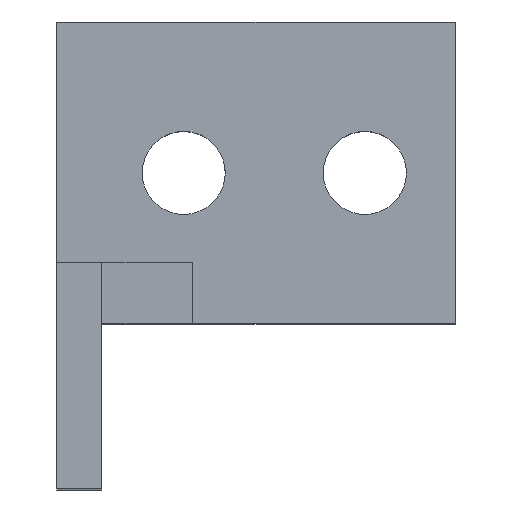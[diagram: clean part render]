
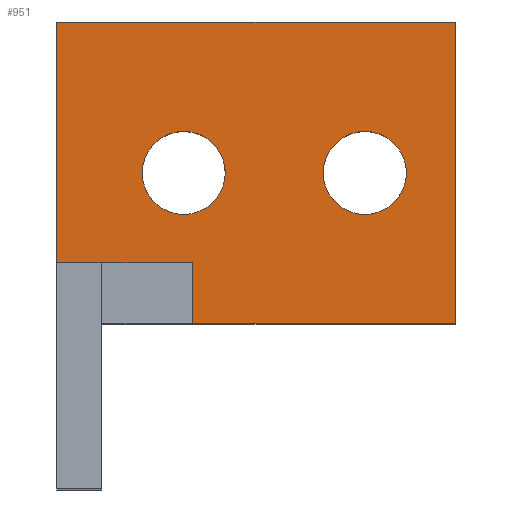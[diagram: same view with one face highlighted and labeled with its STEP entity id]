
A CAD part, top view. The second image highlights one B-rep face of the part: STEP entity #951.
In plain terms, the highlighted planar face has unit normal (0, 0, 1).
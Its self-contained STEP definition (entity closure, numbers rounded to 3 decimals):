
#44 = PLANE('',#45);
#45 = AXIS2_PLACEMENT_3D('',#46,#47,#48);
#46 = CARTESIAN_POINT('',(26.422,11.,0.));
#47 = DIRECTION('',(0.,1.,0.));
#48 = DIRECTION('',(-1.,0.,0.));
#72 = PLANE('',#73);
#73 = AXIS2_PLACEMENT_3D('',#74,#75,#76);
#74 = CARTESIAN_POINT('',(26.422,11.,0.));
#75 = DIRECTION('',(-1.,0.,0.));
#76 = DIRECTION('',(0.,0.,1.));
#100 = PLANE('',#101);
#101 = AXIS2_PLACEMENT_3D('',#102,#103,#104);
#102 = CARTESIAN_POINT('',(26.422,31.,0.));
#103 = DIRECTION('',(0.,1.,0.));
#104 = DIRECTION('',(-1.,0.,0.));
#126 = PLANE('',#127);
#127 = AXIS2_PLACEMENT_3D('',#128,#129,#130);
#128 = CARTESIAN_POINT('',(0.,11.,0.));
#129 = DIRECTION('',(-1.,0.,0.));
#130 = DIRECTION('',(0.,0.,1.));
#157 = CYLINDRICAL_SURFACE('',#158,2.75);
#158 = AXIS2_PLACEMENT_3D('',#159,#160,#161);
#159 = CARTESIAN_POINT('',(20.422,21.,-1.));
#160 = DIRECTION('',(0.,0.,1.));
#161 = DIRECTION('',(-1.,0.,0.));
#188 = CYLINDRICAL_SURFACE('',#189,2.75);
#189 = AXIS2_PLACEMENT_3D('',#190,#191,#192);
#190 = CARTESIAN_POINT('',(8.422,21.,-1.));
#191 = DIRECTION('',(0.,0.,1.));
#192 = DIRECTION('',(-1.,0.,0.));
#203 = EDGE_CURVE('',#204,#206,#208,.T.);
#204 = VERTEX_POINT('',#205);
#205 = CARTESIAN_POINT('',(26.422,11.,5.));
#206 = VERTEX_POINT('',#207);
#207 = CARTESIAN_POINT('',(9.,11.,5.));
#208 = SURFACE_CURVE('',#209,(#213,#220),.PCURVE_S1.);
#209 = LINE('',#210,#211);
#210 = CARTESIAN_POINT('',(26.422,11.,5.));
#211 = VECTOR('',#212,1.);
#212 = DIRECTION('',(-1.,0.,0.));
#213 = PCURVE('',#44,#214);
#214 = DEFINITIONAL_REPRESENTATION('',(#215),#219);
#215 = LINE('',#216,#217);
#216 = CARTESIAN_POINT('',(0.,5.));
#217 = VECTOR('',#218,1.);
#218 = DIRECTION('',(1.,0.));
#219 = ( GEOMETRIC_REPRESENTATION_CONTEXT(2) 
PARAMETRIC_REPRESENTATION_CONTEXT() REPRESENTATION_CONTEXT('2D SPACE',''
  ) );
#220 = PCURVE('',#221,#226);
#221 = PLANE('',#222);
#222 = AXIS2_PLACEMENT_3D('',#223,#224,#225);
#223 = CARTESIAN_POINT('',(26.422,11.,5.));
#224 = DIRECTION('',(0.,0.,1.));
#225 = DIRECTION('',(-1.,0.,0.));
#226 = DEFINITIONAL_REPRESENTATION('',(#227),#231);
#227 = LINE('',#228,#229);
#228 = CARTESIAN_POINT('',(0.,0.));
#229 = VECTOR('',#230,1.);
#230 = DIRECTION('',(1.,0.));
#231 = ( GEOMETRIC_REPRESENTATION_CONTEXT(2) 
PARAMETRIC_REPRESENTATION_CONTEXT() REPRESENTATION_CONTEXT('2D SPACE',''
  ) );
#376 = PLANE('',#377);
#377 = AXIS2_PLACEMENT_3D('',#378,#379,#380);
#378 = CARTESIAN_POINT('',(9.,11.,4.99));
#379 = DIRECTION('',(-1.,0.,0.));
#380 = DIRECTION('',(0.,0.,1.));
#392 = VERTEX_POINT('',#393);
#393 = CARTESIAN_POINT('',(0.,31.,5.));
#496 = VERTEX_POINT('',#497);
#497 = CARTESIAN_POINT('',(0.,15.,5.));
#511 = PLANE('',#512);
#512 = AXIS2_PLACEMENT_3D('',#513,#514,#515);
#513 = CARTESIAN_POINT('',(3.,15.,4.99));
#514 = DIRECTION('',(0.,1.,0.));
#515 = DIRECTION('',(-1.,0.,0.));
#523 = EDGE_CURVE('',#496,#392,#524,.T.);
#524 = SURFACE_CURVE('',#525,(#529,#536),.PCURVE_S1.);
#525 = LINE('',#526,#527);
#526 = CARTESIAN_POINT('',(0.,11.,5.));
#527 = VECTOR('',#528,1.);
#528 = DIRECTION('',(0.,1.,0.));
#529 = PCURVE('',#126,#530);
#530 = DEFINITIONAL_REPRESENTATION('',(#531),#535);
#531 = LINE('',#532,#533);
#532 = CARTESIAN_POINT('',(5.,0.));
#533 = VECTOR('',#534,1.);
#534 = DIRECTION('',(0.,1.));
#535 = ( GEOMETRIC_REPRESENTATION_CONTEXT(2) 
PARAMETRIC_REPRESENTATION_CONTEXT() REPRESENTATION_CONTEXT('2D SPACE',''
  ) );
#536 = PCURVE('',#221,#537);
#537 = DEFINITIONAL_REPRESENTATION('',(#538),#542);
#538 = LINE('',#539,#540);
#539 = CARTESIAN_POINT('',(26.422,0.));
#540 = VECTOR('',#541,1.);
#541 = DIRECTION('',(0.,-1.));
#542 = ( GEOMETRIC_REPRESENTATION_CONTEXT(2) 
PARAMETRIC_REPRESENTATION_CONTEXT() REPRESENTATION_CONTEXT('2D SPACE',''
  ) );
#781 = EDGE_CURVE('',#204,#782,#784,.T.);
#782 = VERTEX_POINT('',#783);
#783 = CARTESIAN_POINT('',(26.422,31.,5.));
#784 = SURFACE_CURVE('',#785,(#789,#796),.PCURVE_S1.);
#785 = LINE('',#786,#787);
#786 = CARTESIAN_POINT('',(26.422,11.,5.));
#787 = VECTOR('',#788,1.);
#788 = DIRECTION('',(0.,1.,0.));
#789 = PCURVE('',#72,#790);
#790 = DEFINITIONAL_REPRESENTATION('',(#791),#795);
#791 = LINE('',#792,#793);
#792 = CARTESIAN_POINT('',(5.,0.));
#793 = VECTOR('',#794,1.);
#794 = DIRECTION('',(0.,1.));
#795 = ( GEOMETRIC_REPRESENTATION_CONTEXT(2) 
PARAMETRIC_REPRESENTATION_CONTEXT() REPRESENTATION_CONTEXT('2D SPACE',''
  ) );
#796 = PCURVE('',#221,#797);
#797 = DEFINITIONAL_REPRESENTATION('',(#798),#802);
#798 = LINE('',#799,#800);
#799 = CARTESIAN_POINT('',(0.,0.));
#800 = VECTOR('',#801,1.);
#801 = DIRECTION('',(0.,-1.));
#802 = ( GEOMETRIC_REPRESENTATION_CONTEXT(2) 
PARAMETRIC_REPRESENTATION_CONTEXT() REPRESENTATION_CONTEXT('2D SPACE',''
  ) );
#831 = EDGE_CURVE('',#782,#392,#832,.T.);
#832 = SURFACE_CURVE('',#833,(#837,#844),.PCURVE_S1.);
#833 = LINE('',#834,#835);
#834 = CARTESIAN_POINT('',(26.422,31.,5.));
#835 = VECTOR('',#836,1.);
#836 = DIRECTION('',(-1.,0.,0.));
#837 = PCURVE('',#100,#838);
#838 = DEFINITIONAL_REPRESENTATION('',(#839),#843);
#839 = LINE('',#840,#841);
#840 = CARTESIAN_POINT('',(0.,5.));
#841 = VECTOR('',#842,1.);
#842 = DIRECTION('',(1.,0.));
#843 = ( GEOMETRIC_REPRESENTATION_CONTEXT(2) 
PARAMETRIC_REPRESENTATION_CONTEXT() REPRESENTATION_CONTEXT('2D SPACE',''
  ) );
#844 = PCURVE('',#221,#845);
#845 = DEFINITIONAL_REPRESENTATION('',(#846),#850);
#846 = LINE('',#847,#848);
#847 = CARTESIAN_POINT('',(0.,-20.));
#848 = VECTOR('',#849,1.);
#849 = DIRECTION('',(1.,0.));
#850 = ( GEOMETRIC_REPRESENTATION_CONTEXT(2) 
PARAMETRIC_REPRESENTATION_CONTEXT() REPRESENTATION_CONTEXT('2D SPACE',''
  ) );
#855 = EDGE_CURVE('',#856,#856,#858,.T.);
#856 = VERTEX_POINT('',#857);
#857 = CARTESIAN_POINT('',(17.672,21.,5.));
#858 = SURFACE_CURVE('',#859,(#864,#871),.PCURVE_S1.);
#859 = CIRCLE('',#860,2.75);
#860 = AXIS2_PLACEMENT_3D('',#861,#862,#863);
#861 = CARTESIAN_POINT('',(20.422,21.,5.));
#862 = DIRECTION('',(0.,0.,1.));
#863 = DIRECTION('',(-1.,0.,0.));
#864 = PCURVE('',#157,#865);
#865 = DEFINITIONAL_REPRESENTATION('',(#866),#870);
#866 = LINE('',#867,#868);
#867 = CARTESIAN_POINT('',(0.,6.));
#868 = VECTOR('',#869,1.);
#869 = DIRECTION('',(1.,0.));
#870 = ( GEOMETRIC_REPRESENTATION_CONTEXT(2) 
PARAMETRIC_REPRESENTATION_CONTEXT() REPRESENTATION_CONTEXT('2D SPACE',''
  ) );
#871 = PCURVE('',#221,#872);
#872 = DEFINITIONAL_REPRESENTATION('',(#873),#877);
#873 = CIRCLE('',#874,2.75);
#874 = AXIS2_PLACEMENT_2D('',#875,#876);
#875 = CARTESIAN_POINT('',(6.,-10.));
#876 = DIRECTION('',(1.,0.));
#877 = ( GEOMETRIC_REPRESENTATION_CONTEXT(2) 
PARAMETRIC_REPRESENTATION_CONTEXT() REPRESENTATION_CONTEXT('2D SPACE',''
  ) );
#905 = EDGE_CURVE('',#906,#906,#908,.T.);
#906 = VERTEX_POINT('',#907);
#907 = CARTESIAN_POINT('',(5.672,21.,5.));
#908 = SURFACE_CURVE('',#909,(#914,#921),.PCURVE_S1.);
#909 = CIRCLE('',#910,2.75);
#910 = AXIS2_PLACEMENT_3D('',#911,#912,#913);
#911 = CARTESIAN_POINT('',(8.422,21.,5.));
#912 = DIRECTION('',(0.,0.,1.));
#913 = DIRECTION('',(-1.,0.,0.));
#914 = PCURVE('',#188,#915);
#915 = DEFINITIONAL_REPRESENTATION('',(#916),#920);
#916 = LINE('',#917,#918);
#917 = CARTESIAN_POINT('',(0.,6.));
#918 = VECTOR('',#919,1.);
#919 = DIRECTION('',(1.,0.));
#920 = ( GEOMETRIC_REPRESENTATION_CONTEXT(2) 
PARAMETRIC_REPRESENTATION_CONTEXT() REPRESENTATION_CONTEXT('2D SPACE',''
  ) );
#921 = PCURVE('',#221,#922);
#922 = DEFINITIONAL_REPRESENTATION('',(#923),#927);
#923 = CIRCLE('',#924,2.75);
#924 = AXIS2_PLACEMENT_2D('',#925,#926);
#925 = CARTESIAN_POINT('',(18.,-10.));
#926 = DIRECTION('',(1.,0.));
#927 = ( GEOMETRIC_REPRESENTATION_CONTEXT(2) 
PARAMETRIC_REPRESENTATION_CONTEXT() REPRESENTATION_CONTEXT('2D SPACE',''
  ) );
#951 = ADVANCED_FACE('',(#952,#1002,#1005),#221,.T.);
#952 = FACE_BOUND('',#953,.T.);
#953 = EDGE_LOOP('',(#954,#955,#956,#957,#958,#981));
#954 = ORIENTED_EDGE('',*,*,#203,.F.);
#955 = ORIENTED_EDGE('',*,*,#781,.T.);
#956 = ORIENTED_EDGE('',*,*,#831,.T.);
#957 = ORIENTED_EDGE('',*,*,#523,.F.);
#958 = ORIENTED_EDGE('',*,*,#959,.T.);
#959 = EDGE_CURVE('',#496,#960,#962,.T.);
#960 = VERTEX_POINT('',#961);
#961 = CARTESIAN_POINT('',(9.,15.,5.));
#962 = SURFACE_CURVE('',#963,(#967,#974),.PCURVE_S1.);
#963 = LINE('',#964,#965);
#964 = CARTESIAN_POINT('',(0.,15.,5.));
#965 = VECTOR('',#966,1.);
#966 = DIRECTION('',(1.,0.,0.));
#967 = PCURVE('',#221,#968);
#968 = DEFINITIONAL_REPRESENTATION('',(#969),#973);
#969 = LINE('',#970,#971);
#970 = CARTESIAN_POINT('',(26.422,-4.));
#971 = VECTOR('',#972,1.);
#972 = DIRECTION('',(-1.,0.));
#973 = ( GEOMETRIC_REPRESENTATION_CONTEXT(2) 
PARAMETRIC_REPRESENTATION_CONTEXT() REPRESENTATION_CONTEXT('2D SPACE',''
  ) );
#974 = PCURVE('',#511,#975);
#975 = DEFINITIONAL_REPRESENTATION('',(#976),#980);
#976 = LINE('',#977,#978);
#977 = CARTESIAN_POINT('',(3.,0.01));
#978 = VECTOR('',#979,1.);
#979 = DIRECTION('',(-1.,0.));
#980 = ( GEOMETRIC_REPRESENTATION_CONTEXT(2) 
PARAMETRIC_REPRESENTATION_CONTEXT() REPRESENTATION_CONTEXT('2D SPACE',''
  ) );
#981 = ORIENTED_EDGE('',*,*,#982,.T.);
#982 = EDGE_CURVE('',#960,#206,#983,.T.);
#983 = SURFACE_CURVE('',#984,(#988,#995),.PCURVE_S1.);
#984 = LINE('',#985,#986);
#985 = CARTESIAN_POINT('',(9.,11.,5.));
#986 = VECTOR('',#987,1.);
#987 = DIRECTION('',(0.,-1.,0.));
#988 = PCURVE('',#221,#989);
#989 = DEFINITIONAL_REPRESENTATION('',(#990),#994);
#990 = LINE('',#991,#992);
#991 = CARTESIAN_POINT('',(17.422,0.));
#992 = VECTOR('',#993,1.);
#993 = DIRECTION('',(0.,1.));
#994 = ( GEOMETRIC_REPRESENTATION_CONTEXT(2) 
PARAMETRIC_REPRESENTATION_CONTEXT() REPRESENTATION_CONTEXT('2D SPACE',''
  ) );
#995 = PCURVE('',#376,#996);
#996 = DEFINITIONAL_REPRESENTATION('',(#997),#1001);
#997 = LINE('',#998,#999);
#998 = CARTESIAN_POINT('',(0.01,0.));
#999 = VECTOR('',#1000,1.);
#1000 = DIRECTION('',(0.,-1.));
#1001 = ( GEOMETRIC_REPRESENTATION_CONTEXT(2) 
PARAMETRIC_REPRESENTATION_CONTEXT() REPRESENTATION_CONTEXT('2D SPACE',''
  ) );
#1002 = FACE_BOUND('',#1003,.T.);
#1003 = EDGE_LOOP('',(#1004));
#1004 = ORIENTED_EDGE('',*,*,#855,.F.);
#1005 = FACE_BOUND('',#1006,.T.);
#1006 = EDGE_LOOP('',(#1007));
#1007 = ORIENTED_EDGE('',*,*,#905,.F.);
